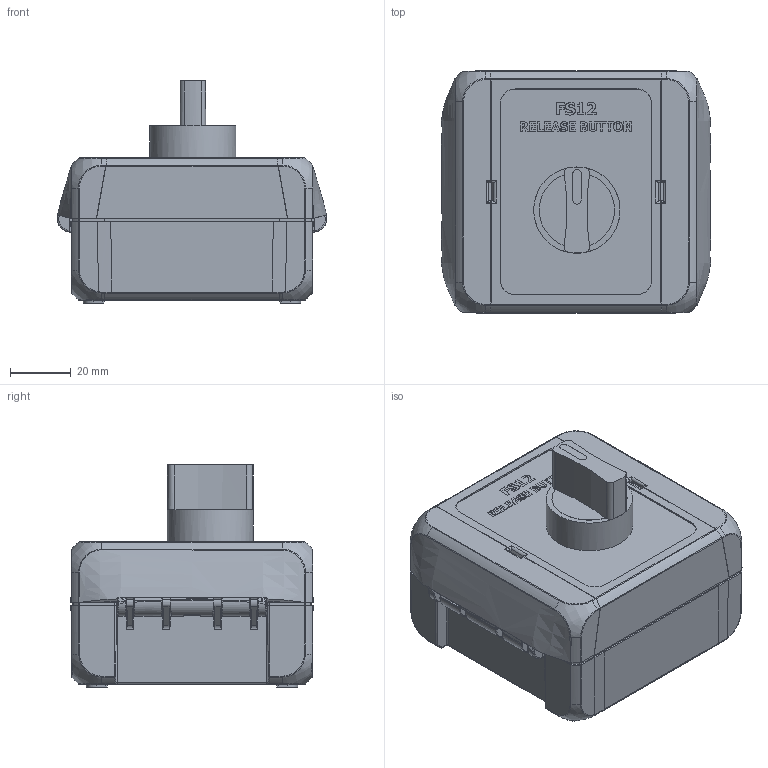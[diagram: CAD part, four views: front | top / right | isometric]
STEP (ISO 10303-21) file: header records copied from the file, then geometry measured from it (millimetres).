
FILE_DESCRIPTION(/* description */ ('FS12'),/* implementation_level */ '2;1');
FILE_NAME(/* name */ 'C:\Users\tokti\AppData\Local\Temp\z5fqkgck.e1s\2878010012280.stp',/* time_stamp */ '2023-05-09T16:40:22+02:00',/* author */ ('thp'),/* organization */ (''),/* preprocessor_version */ 'ST-DEVELOPER v18.1',/* originating_system */ 'Autodesk Inventor 2020',/* authorisation */ '');
FILE_SCHEMA (('AUTOMOTIVE_DESIGN { 1 0 10303 214 3 1 1 }'));
Products named in the file (4): 2878010012280; 287898010012278; 287899020012272; 287898990012279
Assembly tree (3 placements, depth 2):
  2878010012280
    287898010012278
    287899020012272
    287898990012279
Bounding box: 89 x 80 x 73.51 mm (x, y, z)
Volume: 149725.2 mm3; surface area: 101625.5 mm2
Topology: 6 solids, 6 shells, 2600 faces, 6873 edges, 4316 vertices
Faces by surface type: plane 1158, cylinder 722, bspline 576, cone 60, sphere 56, torus 28
Full cylindrical faces by diameter (mm): 4 x7, 4.25 x4, 5.462 x1, 6 x6, 21.75 x1, 28.5 x1
Entity records: 151607 total; most frequent: CARTESIAN_POINT 86499, ORIENTED_EDGE 13670, DIRECTION 12341, EDGE_CURVE 6835, VERTEX_POINT 4316, AXIS2_PLACEMENT_3D 4219, LINE 3903, VECTOR 3903
